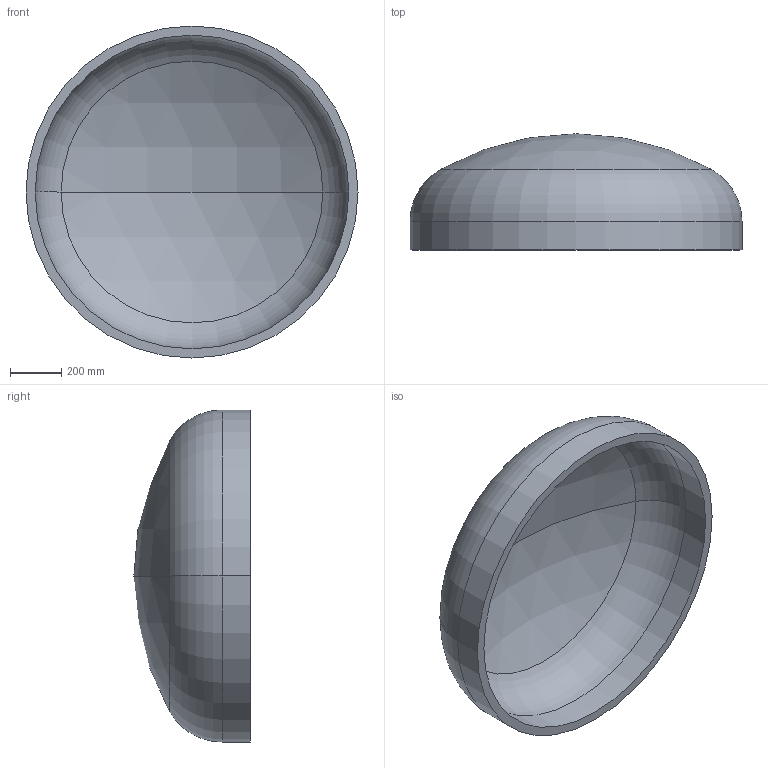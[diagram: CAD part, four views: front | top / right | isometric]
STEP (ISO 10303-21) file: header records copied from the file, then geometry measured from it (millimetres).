
FILE_DESCRIPTION (( 'STEP AP203' ), '1' );
FILE_NAME ('DIN 28013 Korbbogenform_-_Boden DIN 28013 - 1300 x 110 - I - s=36.step', '2016-07-01T09:49:58', ( '' ), ( '' ), 'SwSTEP 2.0', 'SolidWorks 2013', '' );
FILE_SCHEMA (( 'CONFIG_CONTROL_DESIGN' ));
Length unit declared in the file: millimetre
Products named in the file (1): DIN 28013 Korbbogenform_-_Boden DIN 28013 - 1300 x 110 - I - s=36
Bounding box: 1300 x 455.11 x 1300 mm (x, y, z)
Volume: 79536201.2 mm3; surface area: 4564346 mm2
Topology: 1 solids, 1 shells, 13 faces, 24 edges, 14 vertices
Faces by surface type: torus 4, cylinder 4, sphere 4, plane 1
Entity records: 407 total; most frequent: DIRECTION 72, CARTESIAN_POINT 52, ORIENTED_EDGE 48, AXIS2_PLACEMENT_3D 34, EDGE_CURVE 24, CIRCLE 20, EDGE_LOOP 14, VERTEX_POINT 14
